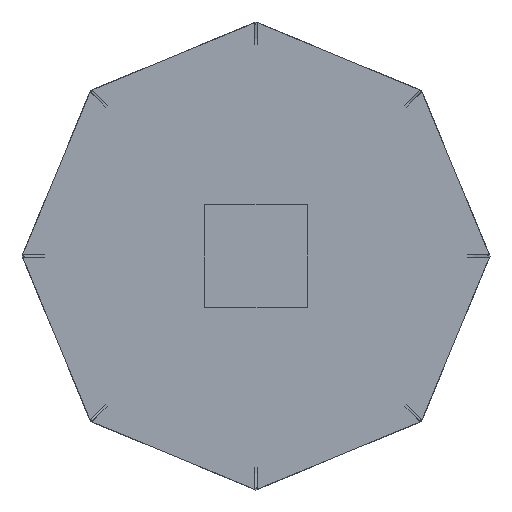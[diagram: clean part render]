
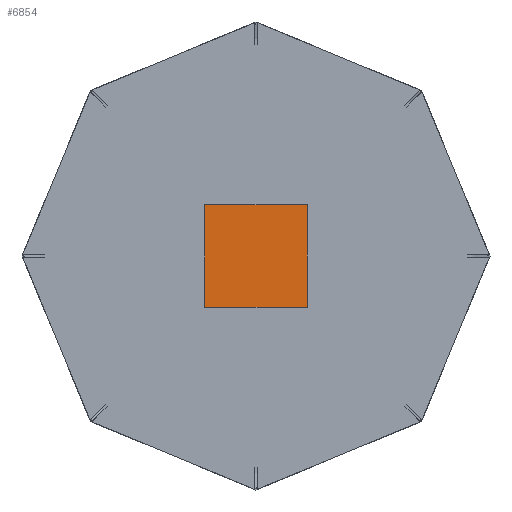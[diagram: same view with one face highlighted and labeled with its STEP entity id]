
A CAD part, front view. The second image highlights one B-rep face of the part: STEP entity #6854.
In plain terms, the highlighted planar face has unit normal (0, -1, 0).
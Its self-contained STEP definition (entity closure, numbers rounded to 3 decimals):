
#538=FACE_OUTER_BOUND('',#893,.T.);
#893=EDGE_LOOP('',(#5791,#5792,#5793,#5794));
#1688=LINE('',#11107,#2487);
#1689=LINE('',#11109,#2488);
#1690=LINE('',#11111,#2489);
#1691=LINE('',#11112,#2490);
#2487=VECTOR('',#9018,10.);
#2488=VECTOR('',#9019,10.);
#2489=VECTOR('',#9020,10.);
#2490=VECTOR('',#9021,10.);
#3090=VERTEX_POINT('',#11105);
#3091=VERTEX_POINT('',#11106);
#3092=VERTEX_POINT('',#11108);
#3093=VERTEX_POINT('',#11110);
#3992=EDGE_CURVE('',#3090,#3091,#1688,.T.);
#3993=EDGE_CURVE('',#3092,#3090,#1689,.T.);
#3994=EDGE_CURVE('',#3093,#3092,#1690,.T.);
#3995=EDGE_CURVE('',#3091,#3093,#1691,.T.);
#5791=ORIENTED_EDGE('',*,*,#3992,.F.);
#5792=ORIENTED_EDGE('',*,*,#3993,.F.);
#5793=ORIENTED_EDGE('',*,*,#3994,.F.);
#5794=ORIENTED_EDGE('',*,*,#3995,.F.);
#6121=PLANE('',#7345);
#6854=ADVANCED_FACE('',(#538),#6121,.T.);
#7345=AXIS2_PLACEMENT_3D('',#11104,#9016,#9017);
#9016=DIRECTION('center_axis',(0.,-1.,0.));
#9017=DIRECTION('ref_axis',(1.,0.,0.));
#9018=DIRECTION('',(0.,0.,1.));
#9019=DIRECTION('',(-1.,0.,0.));
#9020=DIRECTION('',(0.,0.,-1.));
#9021=DIRECTION('',(1.,0.,0.));
#11104=CARTESIAN_POINT('Origin',(0.,-2673.889,
0.));
#11105=CARTESIAN_POINT('',(-365.,-2673.889,-365.));
#11106=CARTESIAN_POINT('',(-365.,-2673.889,365.));
#11107=CARTESIAN_POINT('',(-365.,-2673.889,365.));
#11108=CARTESIAN_POINT('',(365.,-2673.889,-365.));
#11109=CARTESIAN_POINT('',(-365.,-2673.889,-365.));
#11110=CARTESIAN_POINT('',(365.,-2673.889,365.));
#11111=CARTESIAN_POINT('',(365.,-2673.889,-365.));
#11112=CARTESIAN_POINT('',(365.,-2673.889,365.));
